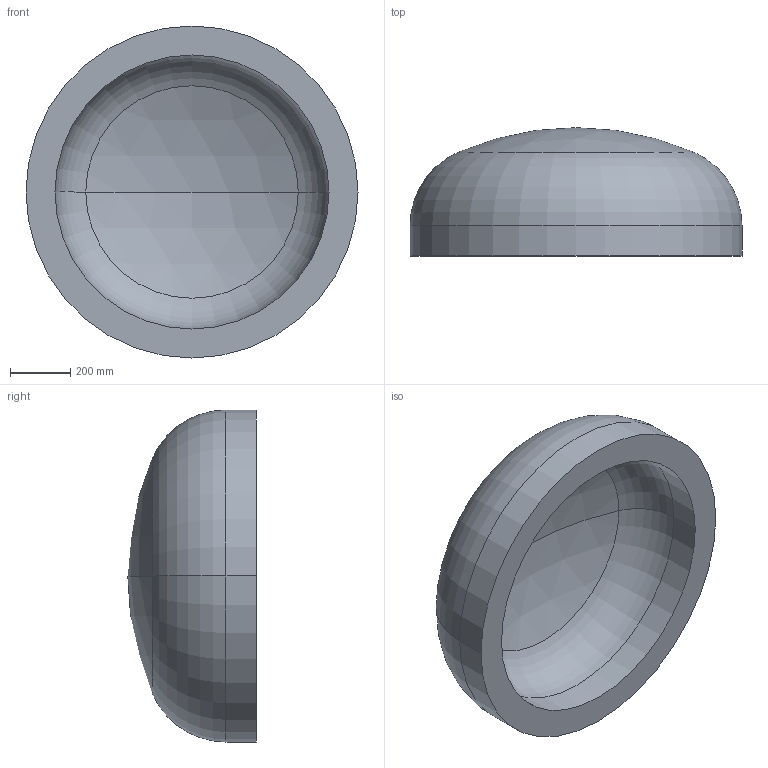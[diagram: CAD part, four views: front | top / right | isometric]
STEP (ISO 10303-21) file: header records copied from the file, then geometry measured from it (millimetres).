
FILE_DESCRIPTION (( 'STEP AP203' ), '1' );
FILE_NAME ('DIN 28013 Korbbogenform_-_Boden DIN 28013 - 1100 x 100 - I - s=96.step', '2016-07-01T09:15:34', ( '' ), ( '' ), 'SwSTEP 2.0', 'SolidWorks 2013', '' );
FILE_SCHEMA (( 'CONFIG_CONTROL_DESIGN' ));
Length unit declared in the file: millimetre
Products named in the file (1): DIN 28013 Korbbogenform_-_Boden DIN 28013 - 1100 x 100 - I - s=96
Bounding box: 1100 x 425.27 x 1100 mm (x, y, z)
Volume: 143674969.2 mm3; surface area: 3315329.2 mm2
Topology: 1 solids, 1 shells, 13 faces, 24 edges, 14 vertices
Faces by surface type: torus 4, cylinder 4, sphere 4, plane 1
Entity records: 407 total; most frequent: DIRECTION 72, CARTESIAN_POINT 52, ORIENTED_EDGE 48, AXIS2_PLACEMENT_3D 34, EDGE_CURVE 24, CIRCLE 20, EDGE_LOOP 14, VERTEX_POINT 14
